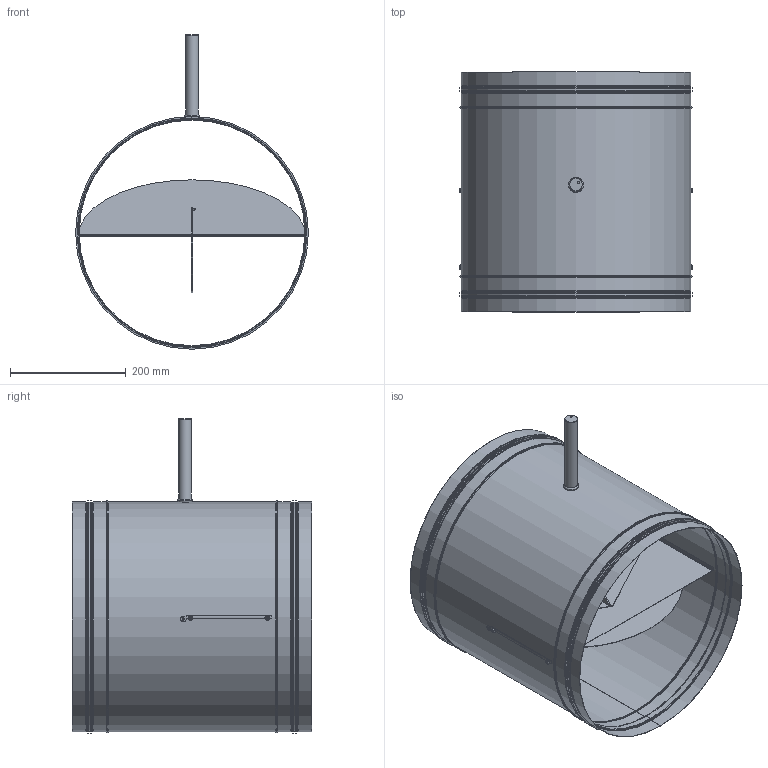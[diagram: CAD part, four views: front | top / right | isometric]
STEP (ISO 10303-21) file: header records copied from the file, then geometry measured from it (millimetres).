
FILE_DESCRIPTION(/* description */ (''),/* implementation_level */ '2;1');
FILE_NAME(/* name */ 'C:\Users\bonsen\Documents\Vault\Daten\BIM_Vorbereitung\VRK\Step Daten\233_VRK\233_400_VRK.stp',/* time_stamp */ '2022-02-03T08:48:08+01:00',/* author */ ('bonsen'),/* organization */ ('Aerotechnik E. Siegwart GmbH'),/* preprocessor_version */ 'ST-DEVELOPER v18.1',/* originating_system */ 'Autodesk Inventor 2020',/* authorisation */ '');
FILE_SCHEMA (('AUTOMOTIVE_DESIGN { 1 0 10303 214 3 1 1 }'));
Length unit declared in the file: millimetre
Products named in the file (5): VRK_80-400; Rohrkörper; Daempferplatte; Verstelleinheit; Lippengummi
Assembly tree (5 placements, depth 2):
  VRK_80-400
    Rohrkörper
    Daempferplatte
    Verstelleinheit
    Lippengummi  x2
Bounding box: 403 x 415 x 544.5 mm (x, y, z)
Volume: 602587.6 mm3; surface area: 1545995.4 mm2
Topology: 7 solids, 7 shells, 258 faces, 567 edges, 331 vertices
Faces by surface type: plane 151, cylinder 62, torus 42, bspline 2, cone 1
Full cylindrical faces by diameter (mm): 2 x5, 3 x2, 4 x2, 8 x4, 21.5 x1, 22 x1, 26 x1, 390.74 x2, 392 x2, 393 x2, 396.74 x5, 397 x6, 398 x5, 400.74 x2, 402 x2, 403 x4
Entity records: 7050 total; most frequent: DIRECTION 1314, CARTESIAN_POINT 1240, ORIENTED_EDGE 1084, EDGE_CURVE 542, AXIS2_PLACEMENT_3D 527, VERTEX_POINT 312, CIRCLE 267, EDGE_LOOP 264
